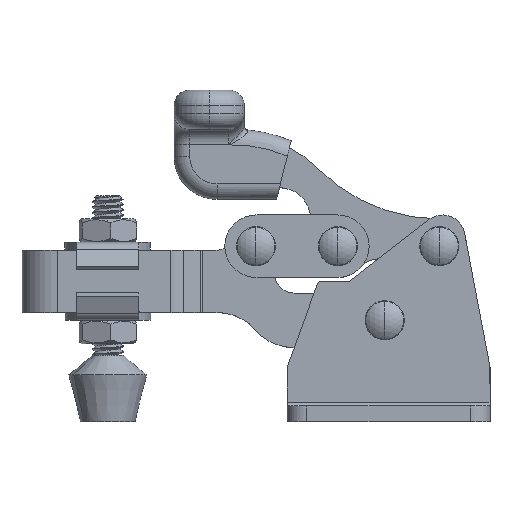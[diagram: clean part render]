
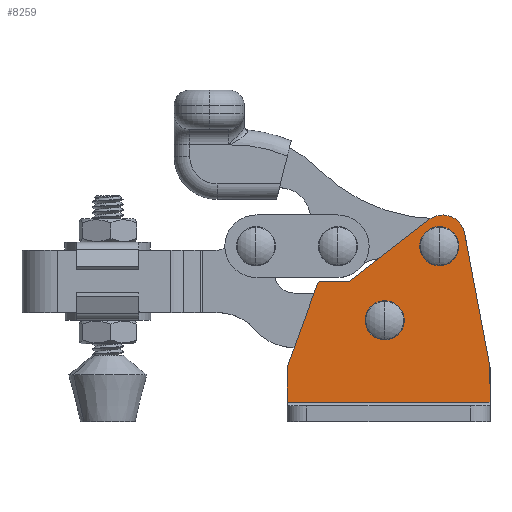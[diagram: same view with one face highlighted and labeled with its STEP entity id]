
A CAD part, top view. The second image highlights one B-rep face of the part: STEP entity #8259.
In plain terms, the highlighted planar face has unit normal (0, 0, 1).
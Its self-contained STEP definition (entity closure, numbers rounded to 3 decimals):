
#125 = VECTOR ( 'NONE', #7553, 1000. ) ;
#288 = VERTEX_POINT ( 'NONE', #12975 ) ;
#329 = EDGE_CURVE ( 'NONE', #11548, #288, #8323, .T. ) ;
#347 = CARTESIAN_POINT ( 'NONE',  ( -13.409, 4.876, 2. ) ) ;
#564 = LINE ( 'NONE', #3233, #15318 ) ;
#742 = CARTESIAN_POINT ( 'NONE',  ( -10.117, 13.026, 2. ) ) ;
#888 = VECTOR ( 'NONE', #17731, 1000. ) ;
#986 = CIRCLE ( 'NONE', #4686, 1.5 ) ;
#1258 = CARTESIAN_POINT ( 'NONE',  ( 1., 12., 2. ) ) ;
#1301 = EDGE_CURVE ( 'NONE', #2360, #11548, #16831, .T. ) ;
#1548 = ORIENTED_EDGE ( 'NONE', *, *, #13257, .T. ) ;
#1686 = VECTOR ( 'NONE', #10728, 1000. ) ;
#1725 = CARTESIAN_POINT ( 'NONE',  ( 6.928, 22.631, 2. ) ) ;
#1886 = VERTEX_POINT ( 'NONE', #6776 ) ;
#1995 = VERTEX_POINT ( 'NONE', #8589 ) ;
#2101 = CARTESIAN_POINT ( 'NONE',  ( 0., 1.5, 2. ) ) ;
#2157 = CARTESIAN_POINT ( 'NONE',  ( -13., 0., 2. ) ) ;
#2327 = EDGE_CURVE ( 'NONE', #1995, #2502, #18238, .T. ) ;
#2360 = VERTEX_POINT ( 'NONE', #10343 ) ;
#2502 = VERTEX_POINT ( 'NONE', #15579 ) ;
#2528 = ORIENTED_EDGE ( 'NONE', *, *, #4263, .F. ) ;
#2899 = VECTOR ( 'NONE', #8111, 1000. ) ;
#2964 = ORIENTED_EDGE ( 'NONE', *, *, #11348, .T. ) ;
#3210 = ORIENTED_EDGE ( 'NONE', *, *, #8481, .T. ) ;
#3231 = DIRECTION ( 'NONE',  ( 1., 0., 0. ) ) ;
#3233 = CARTESIAN_POINT ( 'NONE',  ( 13., 0., 2. ) ) ;
#3368 = CIRCLE ( 'NONE', #13033, 0.5 ) ;
#3375 = AXIS2_PLACEMENT_3D ( 'NONE', #14024, #5531, #15382 ) ;
#3754 = VERTEX_POINT ( 'NONE', #17628 ) ;
#3838 = VERTEX_POINT ( 'NONE', #16080 ) ;
#4098 = DIRECTION ( 'NONE',  ( 1., 0., 0. ) ) ;
#4120 = VERTEX_POINT ( 'NONE', #11243 ) ;
#4138 = CARTESIAN_POINT ( 'NONE',  ( 6.5, 21.5, 2. ) ) ;
#4217 = DIRECTION ( 'NONE',  ( 0., 0., 1. ) ) ;
#4263 = EDGE_CURVE ( 'NONE', #8187, #13423, #986, .T. ) ;
#4295 = CARTESIAN_POINT ( 'NONE',  ( -12.5, 5.912, 2. ) ) ;
#4446 = CIRCLE ( 'NONE', #10363, 1.5 ) ;
#4532 = AXIS2_PLACEMENT_3D ( 'NONE', #12514, #12492, #12471 ) ;
#4686 = AXIS2_PLACEMENT_3D ( 'NONE', #7434, #7413, #7393 ) ;
#5260 = LINE ( 'NONE', #742, #888 ) ;
#5531 = DIRECTION ( 'NONE',  ( 0., 0., 1. ) ) ;
#5672 = VECTOR ( 'NONE', #13632, 1000. ) ;
#5777 = DIRECTION ( 'NONE',  ( 1., 0., 0. ) ) ;
#5851 = CARTESIAN_POINT ( 'NONE',  ( -5.171, 17.5, 2. ) ) ;
#5885 = PLANE ( 'NONE',  #10611 ) ;
#6109 = LINE ( 'NONE', #2157, #5672 ) ;
#6394 = ORIENTED_EDGE ( 'NONE', *, *, #10403, .F. ) ;
#6639 = ORIENTED_EDGE ( 'NONE', *, *, #8133, .F. ) ;
#6776 = CARTESIAN_POINT ( 'NONE',  ( 13., 5.953, 2. ) ) ;
#6986 = DIRECTION ( 'NONE',  ( 0., 0., 1. ) ) ;
#7035 = FACE_OUTER_BOUND ( 'NONE', #14420, .T. ) ;
#7261 = DIRECTION ( 'NONE',  ( 1., 0., 0. ) ) ;
#7312 = DIRECTION ( 'NONE',  ( 0., 0., 1. ) ) ;
#7393 = DIRECTION ( 'NONE',  ( 1., 0., 0. ) ) ;
#7413 = DIRECTION ( 'NONE',  ( 0., 0., 1. ) ) ;
#7434 = CARTESIAN_POINT ( 'NONE',  ( -0.5, 12., 2. ) ) ;
#7531 = EDGE_CURVE ( 'NONE', #16259, #2360, #10870, .T. ) ;
#7548 = ORIENTED_EDGE ( 'NONE', *, *, #7531, .T. ) ;
#7553 = DIRECTION ( 'NONE',  ( -0.342, -0.94, 0. ) ) ;
#7578 = DIRECTION ( 'NONE',  ( 0., 1., 0. ) ) ;
#7769 = AXIS2_PLACEMENT_3D ( 'NONE', #1725, #11812, #3231 ) ;
#7872 = ORIENTED_EDGE ( 'NONE', *, *, #12908, .F. ) ;
#8111 = DIRECTION ( 'NONE',  ( -0.186, 0.983, 0. ) ) ;
#8133 = EDGE_CURVE ( 'NONE', #13423, #8187, #8848, .T. ) ;
#8187 = VERTEX_POINT ( 'NONE', #1258 ) ;
#8259 = ADVANCED_FACE ( 'NONE', ( #11282, #14585, #7035 ), #5885, .T. ) ;
#8323 = CIRCLE ( 'NONE', #4532, 0.5 ) ;
#8397 = ORIENTED_EDGE ( 'NONE', *, *, #14181, .T. ) ;
#8432 = DIRECTION ( 'NONE',  ( 0., 0., 1. ) ) ;
#8481 = EDGE_CURVE ( 'NONE', #4120, #16259, #5260, .T. ) ;
#8487 = LINE ( 'NONE', #2101, #1686 ) ;
#8589 = CARTESIAN_POINT ( 'NONE',  ( 8., 21.5, 2. ) ) ;
#8848 = CIRCLE ( 'NONE', #17440, 1.5 ) ;
#9076 = ORIENTED_EDGE ( 'NONE', *, *, #16909, .T. ) ;
#9179 = VERTEX_POINT ( 'NONE', #15793 ) ;
#10087 = AXIS2_PLACEMENT_3D ( 'NONE', #4138, #4217, #4098 ) ;
#10343 = CARTESIAN_POINT ( 'NONE',  ( -5.171, 17., 2. ) ) ;
#10363 = AXIS2_PLACEMENT_3D ( 'NONE', #16812, #8432, #18123 ) ;
#10403 = EDGE_CURVE ( 'NONE', #4120, #17977, #13677, .T. ) ;
#10611 = AXIS2_PLACEMENT_3D ( 'NONE', #11554, #7312, #17104 ) ;
#10673 = ORIENTED_EDGE ( 'NONE', *, *, #2327, .F. ) ;
#10689 = CARTESIAN_POINT ( 'NONE',  ( -2., 12., 2. ) ) ;
#10728 = DIRECTION ( 'NONE',  ( 1., 0., 0. ) ) ;
#10870 = CIRCLE ( 'NONE', #17217, 0.5 ) ;
#11243 = CARTESIAN_POINT ( 'NONE',  ( 5.168, 24.897, 2. ) ) ;
#11282 = FACE_BOUND ( 'NONE', #17487, .T. ) ;
#11348 = EDGE_CURVE ( 'NONE', #11495, #17977, #14293, .T. ) ;
#11392 = CARTESIAN_POINT ( 'NONE',  ( -8.65, 17., 2. ) ) ;
#11495 = VERTEX_POINT ( 'NONE', #15464 ) ;
#11548 = VERTEX_POINT ( 'NONE', #11392 ) ;
#11554 = CARTESIAN_POINT ( 'NONE',  ( 0., 0., 2. ) ) ;
#11613 = ORIENTED_EDGE ( 'NONE', *, *, #12322, .T. ) ;
#11812 = DIRECTION ( 'NONE',  ( 0., 0., -1. ) ) ;
#12130 = ORIENTED_EDGE ( 'NONE', *, *, #329, .T. ) ;
#12322 = EDGE_CURVE ( 'NONE', #1886, #11495, #15316, .T. ) ;
#12471 = DIRECTION ( 'NONE',  ( 1., 0., 0. ) ) ;
#12492 = DIRECTION ( 'NONE',  ( 0., 0., 1. ) ) ;
#12514 = CARTESIAN_POINT ( 'NONE',  ( -8.65, 16.5, 2. ) ) ;
#12645 = CARTESIAN_POINT ( 'NONE',  ( -4.865, 17.105, 2. ) ) ;
#12908 = EDGE_CURVE ( 'NONE', #2502, #1995, #4446, .T. ) ;
#12975 = CARTESIAN_POINT ( 'NONE',  ( -9.12, 16.671, 2. ) ) ;
#13033 = AXIS2_PLACEMENT_3D ( 'NONE', #4295, #14265, #5777 ) ;
#13037 = ORIENTED_EDGE ( 'NONE', *, *, #1301, .T. ) ;
#13210 = VECTOR ( 'NONE', #15781, 1000. ) ;
#13257 = EDGE_CURVE ( 'NONE', #3838, #1886, #564, .T. ) ;
#13423 = VERTEX_POINT ( 'NONE', #10689 ) ;
#13632 = DIRECTION ( 'NONE',  ( 0., -1., 0. ) ) ;
#13677 = CIRCLE ( 'NONE', #7769, 2.869 ) ;
#14024 = CARTESIAN_POINT ( 'NONE',  ( 12.5, 5.953, 2. ) ) ;
#14181 = EDGE_CURVE ( 'NONE', #18156, #3838, #8487, .T. ) ;
#14265 = DIRECTION ( 'NONE',  ( 0., 0., 1. ) ) ;
#14293 = LINE ( 'NONE', #15186, #2899 ) ;
#14420 = EDGE_LOOP ( 'NONE', ( #13037, #12130, #15528, #9076, #16414, #8397, #1548, #11613, #2964, #6394, #3210, #7548 ) ) ;
#14585 = FACE_BOUND ( 'NONE', #16445, .T. ) ;
#15186 = CARTESIAN_POINT ( 'NONE',  ( 13.647, 2.586, 2. ) ) ;
#15316 = CIRCLE ( 'NONE', #3375, 0.5 ) ;
#15318 = VECTOR ( 'NONE', #7578, 1000. ) ;
#15382 = DIRECTION ( 'NONE',  ( 1., 0., 0. ) ) ;
#15433 = CARTESIAN_POINT ( 'NONE',  ( -0.5, 12., 2. ) ) ;
#15456 = CARTESIAN_POINT ( 'NONE',  ( 0., 17., 2. ) ) ;
#15464 = CARTESIAN_POINT ( 'NONE',  ( 12.991, 6.046, 2. ) ) ;
#15528 = ORIENTED_EDGE ( 'NONE', *, *, #17802, .T. ) ;
#15579 = CARTESIAN_POINT ( 'NONE',  ( 5., 21.5, 2. ) ) ;
#15699 = DIRECTION ( 'NONE',  ( 0., 0., -1. ) ) ;
#15763 = LINE ( 'NONE', #347, #125 ) ;
#15781 = DIRECTION ( 'NONE',  ( -1., 0., 0. ) ) ;
#15793 = CARTESIAN_POINT ( 'NONE',  ( -13., 5.912, 2. ) ) ;
#16030 = EDGE_CURVE ( 'NONE', #9179, #18156, #6109, .T. ) ;
#16080 = CARTESIAN_POINT ( 'NONE',  ( 13., 1.5, 2. ) ) ;
#16259 = VERTEX_POINT ( 'NONE', #12645 ) ;
#16414 = ORIENTED_EDGE ( 'NONE', *, *, #16030, .T. ) ;
#16445 = EDGE_LOOP ( 'NONE', ( #7872, #10673 ) ) ;
#16564 = CARTESIAN_POINT ( 'NONE',  ( 9.747, 23.165, 2. ) ) ;
#16812 = CARTESIAN_POINT ( 'NONE',  ( 6.5, 21.5, 2. ) ) ;
#16814 = DIRECTION ( 'NONE',  ( 1., 0., 0. ) ) ;
#16831 = LINE ( 'NONE', #15456, #13210 ) ;
#16909 = EDGE_CURVE ( 'NONE', #3754, #9179, #3368, .T. ) ;
#17104 = DIRECTION ( 'NONE',  ( 1., 0., 0. ) ) ;
#17217 = AXIS2_PLACEMENT_3D ( 'NONE', #5851, #15699, #7261 ) ;
#17440 = AXIS2_PLACEMENT_3D ( 'NONE', #15433, #6986, #16814 ) ;
#17487 = EDGE_LOOP ( 'NONE', ( #6639, #2528 ) ) ;
#17628 = CARTESIAN_POINT ( 'NONE',  ( -12.97, 6.083, 2. ) ) ;
#17731 = DIRECTION ( 'NONE',  ( -0.79, -0.613, 0. ) ) ;
#17802 = EDGE_CURVE ( 'NONE', #288, #3754, #15763, .T. ) ;
#17977 = VERTEX_POINT ( 'NONE', #16564 ) ;
#18123 = DIRECTION ( 'NONE',  ( 1., 0., 0. ) ) ;
#18156 = VERTEX_POINT ( 'NONE', #18201 ) ;
#18201 = CARTESIAN_POINT ( 'NONE',  ( -13., 1.5, 2. ) ) ;
#18238 = CIRCLE ( 'NONE', #10087, 1.5 ) ;
